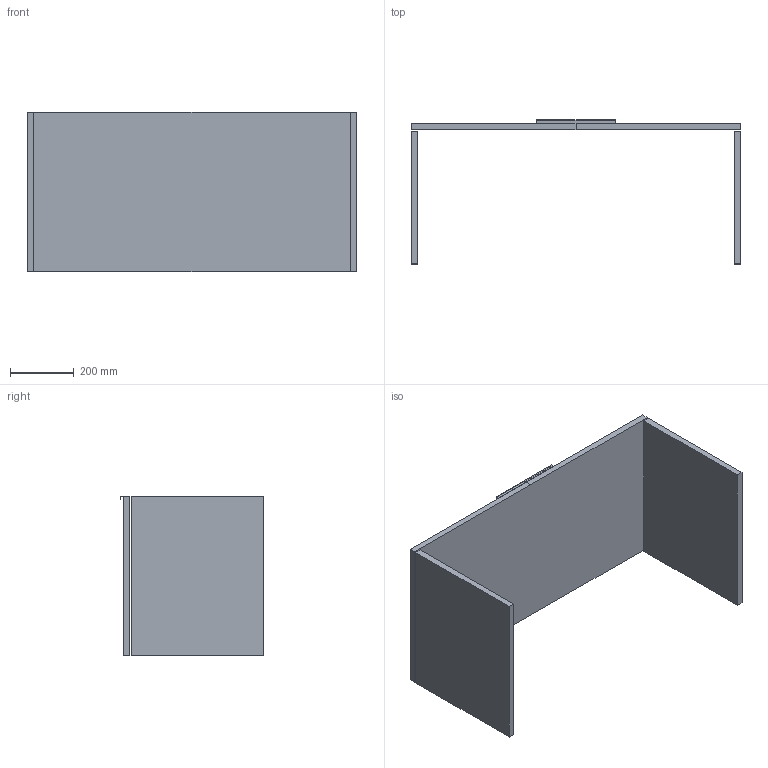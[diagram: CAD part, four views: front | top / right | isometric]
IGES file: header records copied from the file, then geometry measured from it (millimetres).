
Start section: START RECORD GO HERE.
Global section: file name: 7160.igs; native system: DASSAULT SYSTEMES CATIA V5 R19 - www.3ds.com; preprocessor: CATIA Version 5 Release 19 SP 5 ; author: gioge; organization: LAPTOP-G94B6G74; date: 20201002.173834; units: millimetre
Bounding box: 1030 x 450 x 500 mm (x, y, z)
Surface area: 2004272 mm2 (no closed solid volume)
Topology: 0 solids, 0 shells, 28 faces, 120 edges, 120 vertices
Faces by surface type: plane 28
